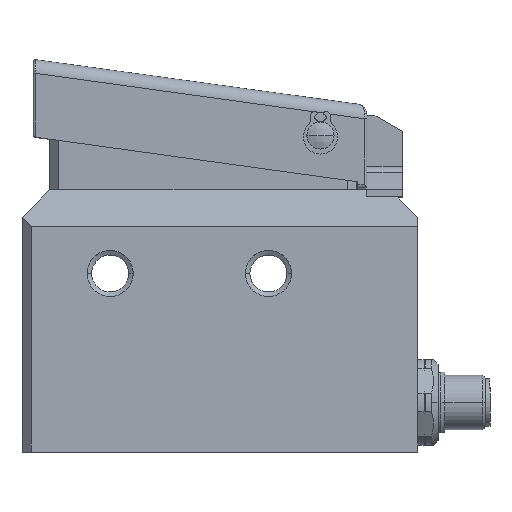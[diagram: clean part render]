
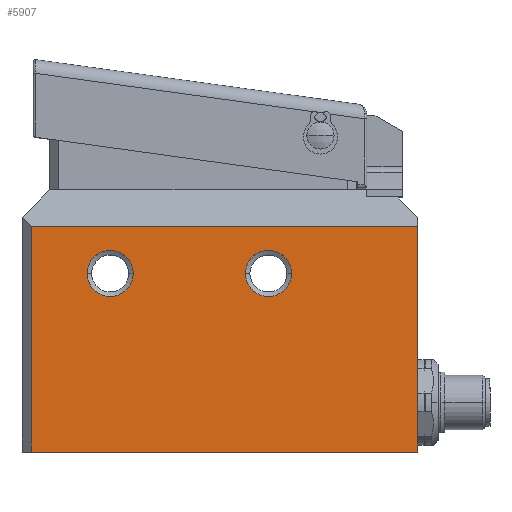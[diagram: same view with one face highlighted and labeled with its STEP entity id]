
A CAD part, top view. The second image highlights one B-rep face of the part: STEP entity #5907.
In plain terms, the highlighted planar face has unit normal (0, 0, 1).
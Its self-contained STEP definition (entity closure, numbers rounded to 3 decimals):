
#394 = FACE_BOUND ( 'NONE', #24412, .T. ) ;
#703 = EDGE_LOOP ( 'NONE', ( #15816, #2203 ) ) ;
#820 = VERTEX_POINT ( 'NONE', #4450 ) ;
#992 = DIRECTION ( 'NONE',  ( 0., -1., 0. ) ) ;
#1259 = PLANE ( 'NONE',  #10179 ) ;
#1591 = CARTESIAN_POINT ( 'NONE',  ( -52.5, -27.6, 20. ) ) ;
#2203 = ORIENTED_EDGE ( 'NONE', *, *, #7523, .F. ) ;
#2219 = CARTESIAN_POINT ( 'NONE',  ( 33., -27.6, 20. ) ) ;
#3024 = LINE ( 'NONE', #27459, #20648 ) ;
#3195 = CARTESIAN_POINT ( 'NONE',  ( -52.5, -77.5, 20. ) ) ;
#3345 = VERTEX_POINT ( 'NONE', #27561 ) ;
#3461 = DIRECTION ( 'NONE',  ( 0., 1., 0. ) ) ;
#4446 = DIRECTION ( 'NONE',  ( 0., -1., 0. ) ) ;
#4450 = CARTESIAN_POINT ( 'NONE',  ( -29.9, -38., 20. ) ) ;
#4631 = CARTESIAN_POINT ( 'NONE',  ( 5.1, -38., 20. ) ) ;
#5316 = EDGE_CURVE ( 'NONE', #12152, #8802, #5606, .T. ) ;
#5441 = CARTESIAN_POINT ( 'NONE',  ( 0., -38., 20. ) ) ;
#5606 = CIRCLE ( 'NONE', #6849, 5.1 ) ;
#5622 = CARTESIAN_POINT ( 'NONE',  ( -5.1, -38., 20. ) ) ;
#5907 = ADVANCED_FACE ( 'NONE', ( #12176, #16653, #394 ), #1259, .F. ) ;
#6351 = CARTESIAN_POINT ( 'NONE',  ( 31., -27.6, 20. ) ) ;
#6489 = DIRECTION ( 'NONE',  ( 0., 0., 1. ) ) ;
#6849 = AXIS2_PLACEMENT_3D ( 'NONE', #5441, #20881, #7661 ) ;
#7435 = AXIS2_PLACEMENT_3D ( 'NONE', #8567, #23992, #10754 ) ;
#7523 = EDGE_CURVE ( 'NONE', #18834, #820, #18239, .T. ) ;
#7661 = DIRECTION ( 'NONE',  ( 1., 0., 0. ) ) ;
#7826 = EDGE_CURVE ( 'NONE', #16466, #27670, #28271, .T. ) ;
#8286 = VECTOR ( 'NONE', #4446, 1000. ) ;
#8567 = CARTESIAN_POINT ( 'NONE',  ( -35., -38., 20. ) ) ;
#8802 = VERTEX_POINT ( 'NONE', #5622 ) ;
#9752 = ORIENTED_EDGE ( 'NONE', *, *, #18350, .F. ) ;
#9979 = VECTOR ( 'NONE', #992, 1000. ) ;
#10179 = AXIS2_PLACEMENT_3D ( 'NONE', #25520, #12190, #3461 ) ;
#10279 = DIRECTION ( 'NONE',  ( 0., 0., 1. ) ) ;
#10653 = AXIS2_PLACEMENT_3D ( 'NONE', #23498, #10279, #25715 ) ;
#10754 = DIRECTION ( 'NONE',  ( 1., 0., 0. ) ) ;
#12152 = VERTEX_POINT ( 'NONE', #4631 ) ;
#12176 = FACE_OUTER_BOUND ( 'NONE', #15915, .T. ) ;
#12190 = DIRECTION ( 'NONE',  ( 0., 0., -1. ) ) ;
#12804 = LINE ( 'NONE', #6351, #24549 ) ;
#12878 = ORIENTED_EDGE ( 'NONE', *, *, #22950, .T. ) ;
#13024 = DIRECTION ( 'NONE',  ( -1., 0., 0. ) ) ;
#14148 = LINE ( 'NONE', #2219, #8286 ) ;
#15627 = EDGE_CURVE ( 'NONE', #8802, #12152, #22652, .T. ) ;
#15707 = ORIENTED_EDGE ( 'NONE', *, *, #7826, .T. ) ;
#15816 = ORIENTED_EDGE ( 'NONE', *, *, #18975, .F. ) ;
#15915 = EDGE_LOOP ( 'NONE', ( #12878, #15707, #9752, #26476 ) ) ;
#16466 = VERTEX_POINT ( 'NONE', #1591 ) ;
#16653 = FACE_BOUND ( 'NONE', #703, .T. ) ;
#18174 = ORIENTED_EDGE ( 'NONE', *, *, #5316, .F. ) ;
#18239 = CIRCLE ( 'NONE', #7435, 5.1 ) ;
#18350 = EDGE_CURVE ( 'NONE', #21770, #27670, #3024, .T. ) ;
#18673 = ORIENTED_EDGE ( 'NONE', *, *, #15627, .F. ) ;
#18688 = CARTESIAN_POINT ( 'NONE',  ( -52.5, -77.5, 20. ) ) ;
#18834 = VERTEX_POINT ( 'NONE', #27719 ) ;
#18975 = EDGE_CURVE ( 'NONE', #820, #18834, #19225, .T. ) ;
#19225 = CIRCLE ( 'NONE', #19656, 5.1 ) ;
#19656 = AXIS2_PLACEMENT_3D ( 'NONE', #19676, #6489, #21923 ) ;
#19676 = CARTESIAN_POINT ( 'NONE',  ( -35., -38., 20. ) ) ;
#20648 = VECTOR ( 'NONE', #25247, 1000. ) ;
#20881 = DIRECTION ( 'NONE',  ( 0., 0., 1. ) ) ;
#21770 = VERTEX_POINT ( 'NONE', #24102 ) ;
#21923 = DIRECTION ( 'NONE',  ( 1., 0., 0. ) ) ;
#22652 = CIRCLE ( 'NONE', #10653, 5.1 ) ;
#22950 = EDGE_CURVE ( 'NONE', #3345, #16466, #12804, .T. ) ;
#23498 = CARTESIAN_POINT ( 'NONE',  ( 0., -38., 20. ) ) ;
#23992 = DIRECTION ( 'NONE',  ( 0., 0., 1. ) ) ;
#24045 = EDGE_CURVE ( 'NONE', #3345, #21770, #14148, .T. ) ;
#24102 = CARTESIAN_POINT ( 'NONE',  ( 33., -77.5, 20. ) ) ;
#24412 = EDGE_LOOP ( 'NONE', ( #18174, #18673 ) ) ;
#24549 = VECTOR ( 'NONE', #13024, 1000. ) ;
#25247 = DIRECTION ( 'NONE',  ( -1., 0., 0. ) ) ;
#25520 = CARTESIAN_POINT ( 'NONE',  ( 31., -27.6, 20. ) ) ;
#25715 = DIRECTION ( 'NONE',  ( 1., 0., 0. ) ) ;
#26476 = ORIENTED_EDGE ( 'NONE', *, *, #24045, .F. ) ;
#27459 = CARTESIAN_POINT ( 'NONE',  ( 31., -77.5, 20. ) ) ;
#27561 = CARTESIAN_POINT ( 'NONE',  ( 33., -27.6, 20. ) ) ;
#27670 = VERTEX_POINT ( 'NONE', #18688 ) ;
#27719 = CARTESIAN_POINT ( 'NONE',  ( -40.1, -38., 20. ) ) ;
#28271 = LINE ( 'NONE', #3195, #9979 ) ;
